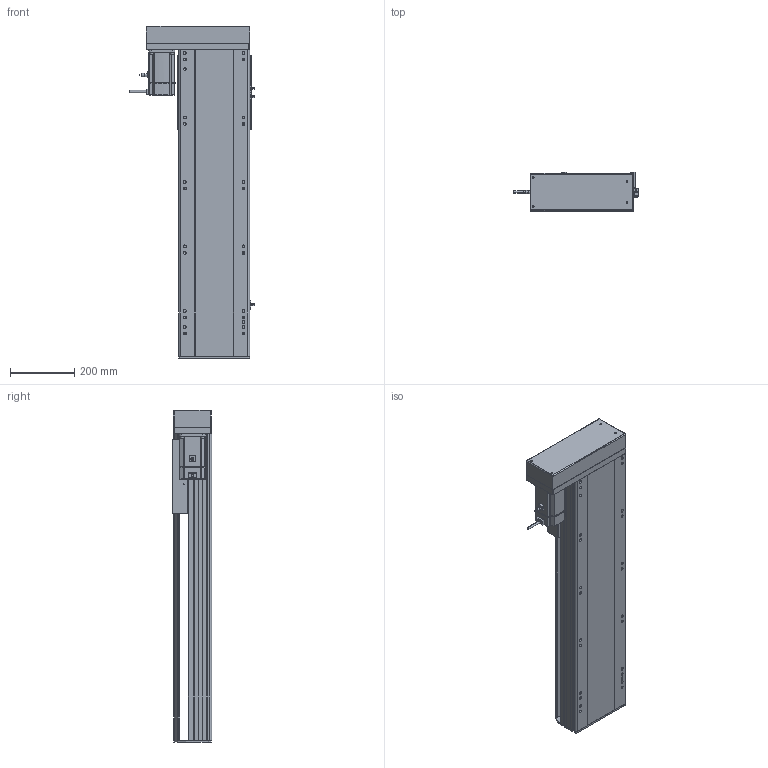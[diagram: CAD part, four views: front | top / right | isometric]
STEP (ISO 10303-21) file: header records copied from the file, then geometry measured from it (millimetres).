
FILE_DESCRIPTION (( 'STEP AP214' ), '1' );
FILE_NAME ('RTH22-XX-650-R-M75-C4.STEP', '2025-10-25T03:10:46', ( 'Microsoft' ), ( 'Microsoft' ), 'SwSTEP 2.0', 'SolidWorks 2018', '' );
FILE_SCHEMA (( 'AUTOMOTIVE_DESIGN' ));
Length unit declared in the file: millimetre
Products named in the file (10): N_750W萇儂^RTH22-XX-XX-R-M75-C4; N_RTH22-GY-013外置感应片^RTH22-XX-XX-R-M75-C4; N_RTH22-L-011菁釱^RTH22-XX-XX-R-M75-C4; N_RTH22-L-004-SFS25賑釱^RTH22-XX-XX-R-M75-C4; N_RTH22-GY-001耜裔^RTH22-XX-XX-R-M75-C4; RTH22-XX-650-R-M75-C4; N_RTH22-L-007奻裔^RTH22-XX-XX-R-M75-C4; N_RTH22-L-018裔赽^RTH22-XX-XX-R-M75-C4; N_RTH22-R-008-P75萇儂啣^RTH22-XX-XX-R-M75-C4; N_OMRON EE-SX672 传感器^RTH22-XX-XX-R-M75-C4
Assembly tree (11 placements, depth 2):
  RTH22-XX-650-R-M75-C4
    N_RTH22-L-011菁釱^RTH22-XX-XX-R-M75-C4
    N_RTH22-GY-001耜裔^RTH22-XX-XX-R-M75-C4
    N_750W萇儂^RTH22-XX-XX-R-M75-C4
    N_RTH22-R-008-P75萇儂啣^RTH22-XX-XX-R-M75-C4
    N_RTH22-L-007奻裔^RTH22-XX-XX-R-M75-C4
    N_OMRON EE-SX672 传感器^RTH22-XX-XX-R-M75-C4  x3
    N_RTH22-GY-013外置感应片^RTH22-XX-XX-R-M75-C4
    N_RTH22-L-004-SFS25賑釱^RTH22-XX-XX-R-M75-C4
    N_RTH22-L-018裔赽^RTH22-XX-XX-R-M75-C4
Bounding box: 384.7 x 122 x 1029.7 mm (x, y, z)
Volume: 14832557 mm3; surface area: 1711534.2 mm2
Topology: 11 solids, 11 shells, 1574 faces, 4297 edges, 2773 vertices
Faces by surface type: plane 791, cylinder 450, bspline 279, cone 54
Entity records: 39309 total; most frequent: CARTESIAN_POINT 12054, ORIENTED_EDGE 5578, DIRECTION 5235, EDGE_CURVE 2789, VERTEX_POINT 1809, AXIS2_PLACEMENT_3D 1750, LINE 1735, VECTOR 1735
